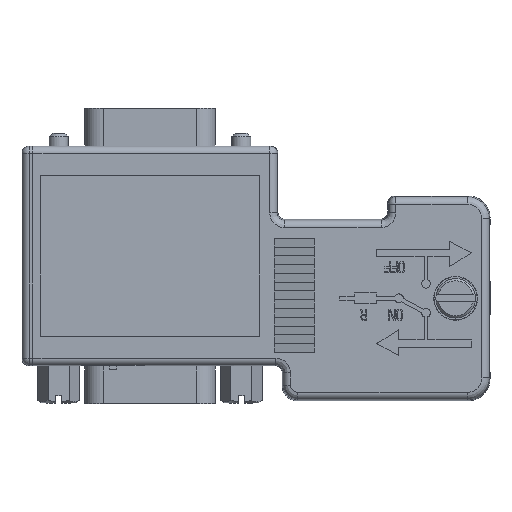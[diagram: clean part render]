
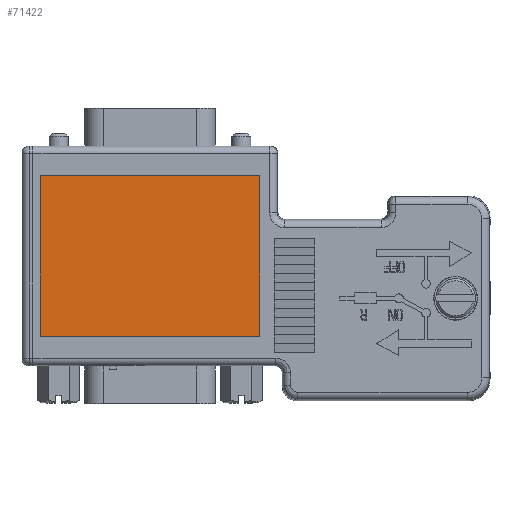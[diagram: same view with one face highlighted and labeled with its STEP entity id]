
A CAD part, top view. The second image highlights one B-rep face of the part: STEP entity #71422.
In plain terms, the highlighted planar face has unit normal (0, 0, 1).
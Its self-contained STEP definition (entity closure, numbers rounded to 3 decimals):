
#27827 = PLANE('',#27828);
#27828 = AXIS2_PLACEMENT_3D('',#27829,#27830,#27831);
#27829 = CARTESIAN_POINT('',(0.,-11.,7.7));
#27830 = DIRECTION('',(0.,-1.,0.));
#27831 = DIRECTION('',(0.,0.,-1.));
#27855 = PLANE('',#27856);
#27856 = AXIS2_PLACEMENT_3D('',#27857,#27858,#27859);
#27857 = CARTESIAN_POINT('',(-15.,0.,7.7));
#27858 = DIRECTION('',(-1.,0.,0.));
#27859 = DIRECTION('',(0.,0.,1.));
#27883 = PLANE('',#27884);
#27884 = AXIS2_PLACEMENT_3D('',#27885,#27886,#27887);
#27885 = CARTESIAN_POINT('',(0.,11.,7.7));
#27886 = DIRECTION('',(0.,1.,0.));
#27887 = DIRECTION('',(0.,0.,1.));
#27909 = PLANE('',#27910);
#27910 = AXIS2_PLACEMENT_3D('',#27911,#27912,#27913);
#27911 = CARTESIAN_POINT('',(15.,0.,7.7));
#27912 = DIRECTION('',(1.,0.,0.));
#27913 = DIRECTION('',(0.,0.,-1.));
#38986 = VERTEX_POINT('',#38987);
#38987 = CARTESIAN_POINT('',(15.,-11.,8.5));
#39008 = EDGE_CURVE('',#39009,#38986,#39011,.T.);
#39009 = VERTEX_POINT('',#39010);
#39010 = CARTESIAN_POINT('',(-15.,-11.,8.5));
#39011 = SURFACE_CURVE('',#39012,(#39016,#39023),.PCURVE_S1.);
#39012 = LINE('',#39013,#39014);
#39013 = CARTESIAN_POINT('',(-15.,-11.,8.5));
#39014 = VECTOR('',#39015,1.);
#39015 = DIRECTION('',(1.,0.,0.));
#39016 = PCURVE('',#27827,#39017);
#39017 = DEFINITIONAL_REPRESENTATION('',(#39018),#39022);
#39018 = LINE('',#39019,#39020);
#39019 = CARTESIAN_POINT('',(-0.8,-15.));
#39020 = VECTOR('',#39021,1.);
#39021 = DIRECTION('',(0.,1.));
#39022 = ( GEOMETRIC_REPRESENTATION_CONTEXT(2) 
PARAMETRIC_REPRESENTATION_CONTEXT() REPRESENTATION_CONTEXT('2D SPACE',''
  ) );
#39023 = PCURVE('',#39024,#39029);
#39024 = PLANE('',#39025);
#39025 = AXIS2_PLACEMENT_3D('',#39026,#39027,#39028);
#39026 = CARTESIAN_POINT('',(18.,-18.7,8.5));
#39027 = DIRECTION('',(0.,0.,1.));
#39028 = DIRECTION('',(0.,-1.,0.));
#39029 = DEFINITIONAL_REPRESENTATION('',(#39030),#39034);
#39030 = LINE('',#39031,#39032);
#39031 = CARTESIAN_POINT('',(-7.7,-33.));
#39032 = VECTOR('',#39033,1.);
#39033 = DIRECTION('',(0.,1.));
#39034 = ( GEOMETRIC_REPRESENTATION_CONTEXT(2) 
PARAMETRIC_REPRESENTATION_CONTEXT() REPRESENTATION_CONTEXT('2D SPACE',''
  ) );
#39062 = EDGE_CURVE('',#39063,#39009,#39065,.T.);
#39063 = VERTEX_POINT('',#39064);
#39064 = CARTESIAN_POINT('',(-15.,11.,8.5));
#39065 = SURFACE_CURVE('',#39066,(#39070,#39077),.PCURVE_S1.);
#39066 = LINE('',#39067,#39068);
#39067 = CARTESIAN_POINT('',(-15.,-18.7,8.5));
#39068 = VECTOR('',#39069,1.);
#39069 = DIRECTION('',(0.,-1.,0.));
#39070 = PCURVE('',#27855,#39071);
#39071 = DEFINITIONAL_REPRESENTATION('',(#39072),#39076);
#39072 = LINE('',#39073,#39074);
#39073 = CARTESIAN_POINT('',(0.8,-18.7));
#39074 = VECTOR('',#39075,1.);
#39075 = DIRECTION('',(0.,-1.));
#39076 = ( GEOMETRIC_REPRESENTATION_CONTEXT(2) 
PARAMETRIC_REPRESENTATION_CONTEXT() REPRESENTATION_CONTEXT('2D SPACE',''
  ) );
#39077 = PCURVE('',#39024,#39078);
#39078 = DEFINITIONAL_REPRESENTATION('',(#39079),#39083);
#39079 = LINE('',#39080,#39081);
#39080 = CARTESIAN_POINT('',(0.,-33.));
#39081 = VECTOR('',#39082,1.);
#39082 = DIRECTION('',(1.,0.));
#39083 = ( GEOMETRIC_REPRESENTATION_CONTEXT(2) 
PARAMETRIC_REPRESENTATION_CONTEXT() REPRESENTATION_CONTEXT('2D SPACE',''
  ) );
#39111 = EDGE_CURVE('',#39112,#39063,#39114,.T.);
#39112 = VERTEX_POINT('',#39113);
#39113 = CARTESIAN_POINT('',(15.,11.,8.5));
#39114 = SURFACE_CURVE('',#39115,(#39119,#39126),.PCURVE_S1.);
#39115 = LINE('',#39116,#39117);
#39116 = CARTESIAN_POINT('',(15.,11.,8.5));
#39117 = VECTOR('',#39118,1.);
#39118 = DIRECTION('',(-1.,0.,0.));
#39119 = PCURVE('',#27883,#39120);
#39120 = DEFINITIONAL_REPRESENTATION('',(#39121),#39125);
#39121 = LINE('',#39122,#39123);
#39122 = CARTESIAN_POINT('',(0.8,15.));
#39123 = VECTOR('',#39124,1.);
#39124 = DIRECTION('',(0.,-1.));
#39125 = ( GEOMETRIC_REPRESENTATION_CONTEXT(2) 
PARAMETRIC_REPRESENTATION_CONTEXT() REPRESENTATION_CONTEXT('2D SPACE',''
  ) );
#39126 = PCURVE('',#39024,#39127);
#39127 = DEFINITIONAL_REPRESENTATION('',(#39128),#39132);
#39128 = LINE('',#39129,#39130);
#39129 = CARTESIAN_POINT('',(-29.7,-3.));
#39130 = VECTOR('',#39131,1.);
#39131 = DIRECTION('',(0.,-1.));
#39132 = ( GEOMETRIC_REPRESENTATION_CONTEXT(2) 
PARAMETRIC_REPRESENTATION_CONTEXT() REPRESENTATION_CONTEXT('2D SPACE',''
  ) );
#39160 = EDGE_CURVE('',#38986,#39112,#39161,.T.);
#39161 = SURFACE_CURVE('',#39162,(#39166,#39173),.PCURVE_S1.);
#39162 = LINE('',#39163,#39164);
#39163 = CARTESIAN_POINT('',(15.,-11.,8.5));
#39164 = VECTOR('',#39165,1.);
#39165 = DIRECTION('',(0.,1.,0.));
#39166 = PCURVE('',#27909,#39167);
#39167 = DEFINITIONAL_REPRESENTATION('',(#39168),#39172);
#39168 = LINE('',#39169,#39170);
#39169 = CARTESIAN_POINT('',(-0.8,-11.));
#39170 = VECTOR('',#39171,1.);
#39171 = DIRECTION('',(0.,1.));
#39172 = ( GEOMETRIC_REPRESENTATION_CONTEXT(2) 
PARAMETRIC_REPRESENTATION_CONTEXT() REPRESENTATION_CONTEXT('2D SPACE',''
  ) );
#39173 = PCURVE('',#39024,#39174);
#39174 = DEFINITIONAL_REPRESENTATION('',(#39175),#39179);
#39175 = LINE('',#39176,#39177);
#39176 = CARTESIAN_POINT('',(-7.7,-3.));
#39177 = VECTOR('',#39178,1.);
#39178 = DIRECTION('',(-1.,0.));
#39179 = ( GEOMETRIC_REPRESENTATION_CONTEXT(2) 
PARAMETRIC_REPRESENTATION_CONTEXT() REPRESENTATION_CONTEXT('2D SPACE',''
  ) );
#71422 = ADVANCED_FACE('',(#71423),#39024,.T.);
#71423 = FACE_BOUND('',#71424,.T.);
#71424 = EDGE_LOOP('',(#71425,#71426,#71427,#71428));
#71425 = ORIENTED_EDGE('',*,*,#39111,.T.);
#71426 = ORIENTED_EDGE('',*,*,#39062,.T.);
#71427 = ORIENTED_EDGE('',*,*,#39008,.T.);
#71428 = ORIENTED_EDGE('',*,*,#39160,.T.);
